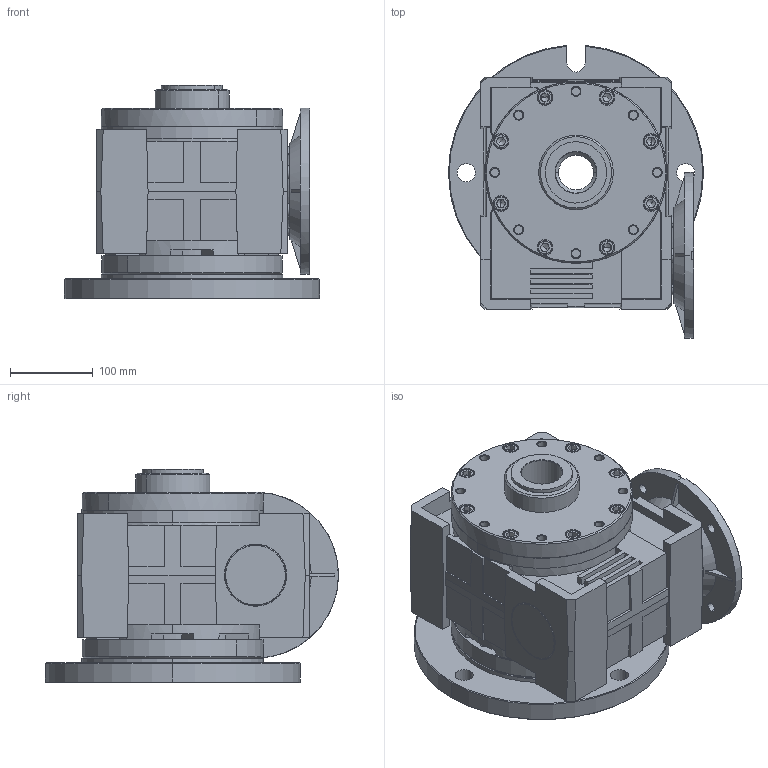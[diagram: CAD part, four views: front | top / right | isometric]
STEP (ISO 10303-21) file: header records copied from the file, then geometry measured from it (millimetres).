
FILE_DESCRIPTION (( 'STEP AP203' ), '1' );
FILE_NAME ('MRP-100_200-24_SP_K-1.STEP', '2024-04-04T12:42:14', ( '' ), ( '' ), 'SwSTEP 2.0', 'SolidWorks 2022', '' );
FILE_SCHEMA (( 'CONFIG_CONTROL_DESIGN' ));
Length unit declared in the file: millimetre
Products named in the file (1): MRP-100_200-24_SP_K-1
Bounding box: 308 x 353.83 x 258 mm (x, y, z)
Volume: 11503591 mm3; surface area: 867396.6 mm2
Topology: 1 solids, 66 shells, 1899 faces, 4487 edges, 2768 vertices
Faces by surface type: plane 914, cone 400, cylinder 372, torus 149, bspline 64
Entity records: 58847 total; most frequent: CARTESIAN_POINT 15093, DIRECTION 9406, ORIENTED_EDGE 8818, EDGE_CURVE 4409, AXIS2_PLACEMENT_3D 3643, VERTEX_POINT 2768, VECTOR 2120, LINE 2120
